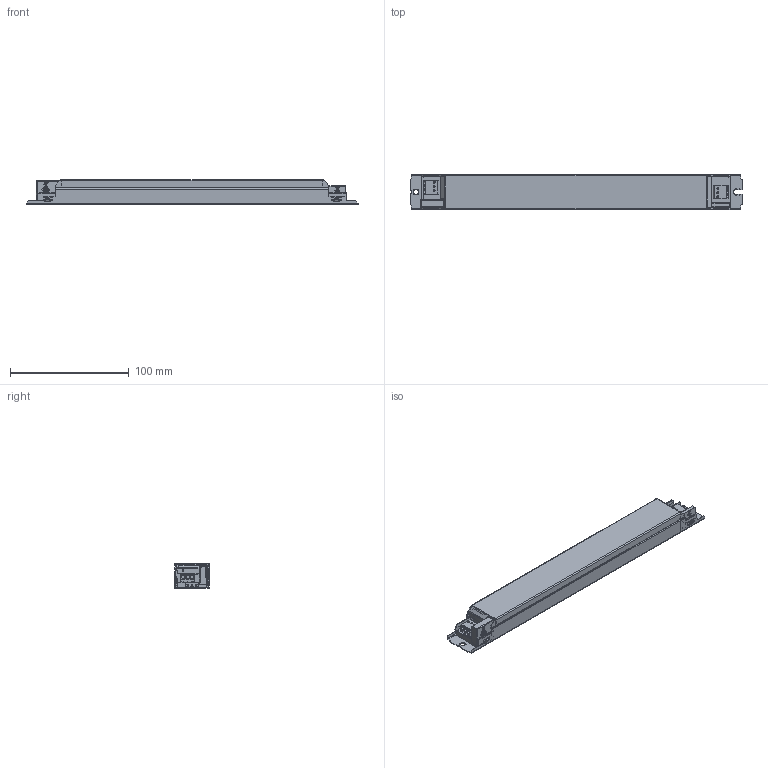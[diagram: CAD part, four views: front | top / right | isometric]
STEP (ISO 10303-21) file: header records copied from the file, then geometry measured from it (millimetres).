
FILE_DESCRIPTION (( 'STEP AP214' ), '1' );
FILE_NAME ('4358905swm000.step', '2022-07-08T11:15:41', ( 'Windows User' ), ( '' ), 'SwSTEP 2.0', 'SolidWorks 2020', '' );
FILE_SCHEMA (( 'AUTOMOTIVE_DESIGN' ));
Length unit declared in the file: millimetre
Products named in the file (1): 4358905swm000
Bounding box: 279 x 30 x 21 mm (x, y, z)
Volume: 144027.4 mm3; surface area: 36189.2 mm2
Topology: 1 solids, 1 shells, 1214 faces, 3555 edges, 2333 vertices
Faces by surface type: plane 776, cylinder 318, bspline 104, cone 12, sphere 2, torus 2
Entity records: 45729 total; most frequent: CARTESIAN_POINT 12586, ORIENTED_EDGE 7110, DIRECTION 5958, EDGE_CURVE 3555, LINE 2616, VECTOR 2616, VERTEX_POINT 2333, AXIS2_PLACEMENT_3D 1671
